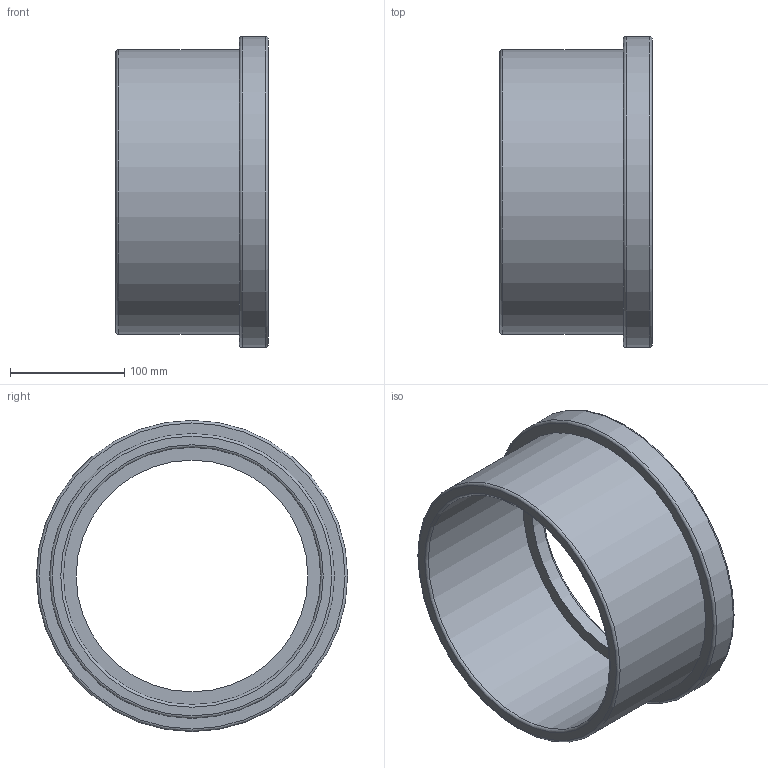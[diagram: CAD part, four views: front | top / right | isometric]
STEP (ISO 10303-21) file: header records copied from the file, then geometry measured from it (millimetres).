
FILE_DESCRIPTION(/* description */ ('PLASSON FLANGE AD.+O-RING-CE 225'),/* implementation_level */ '2;1');
FILE_NAME(/* name */ 'C:\Dropbox\KIMPROJECTS-Inventor\99-16-3568-Processing\PVC Catalog 2017\055000\055000225.ipt.stp',/* time_stamp */ '2017-12-07T16:04:48+02:00',/* author */ ('KIM'),/* organization */ (''),/* preprocessor_version */ 'ST-DEVELOPER v15.6',/* originating_system */ 'Autodesk Inventor 2015',/* authorisation */ '');
FILE_SCHEMA (('AUTOMOTIVE_DESIGN { 1 0 10303 214 3 1 1 }'));
Length unit declared in the file: millimetre
Products named in the file (1): 055000225
Bounding box: 133 x 272 x 272 mm (x, y, z)
Volume: 1466924.3 mm3; surface area: 255266.4 mm2
Topology: 1 solids, 1 shells, 21 faces, 36 edges, 21 vertices
Faces by surface type: torus 9, plane 6, cylinder 6
Full cylindrical faces by diameter (mm): 202.5 x1, 225 x1, 226.825 x1, 247.675 x1, 249 x1, 272 x1
Entity records: 452 total; most frequent: DIRECTION 86, CARTESIAN_POINT 64, AXIS2_PLACEMENT_3D 43, EDGE_LOOP 42, ORIENTED_EDGE 42, FACE_BOUND 21, FACE_OUTER_BOUND 21, CIRCLE 21
